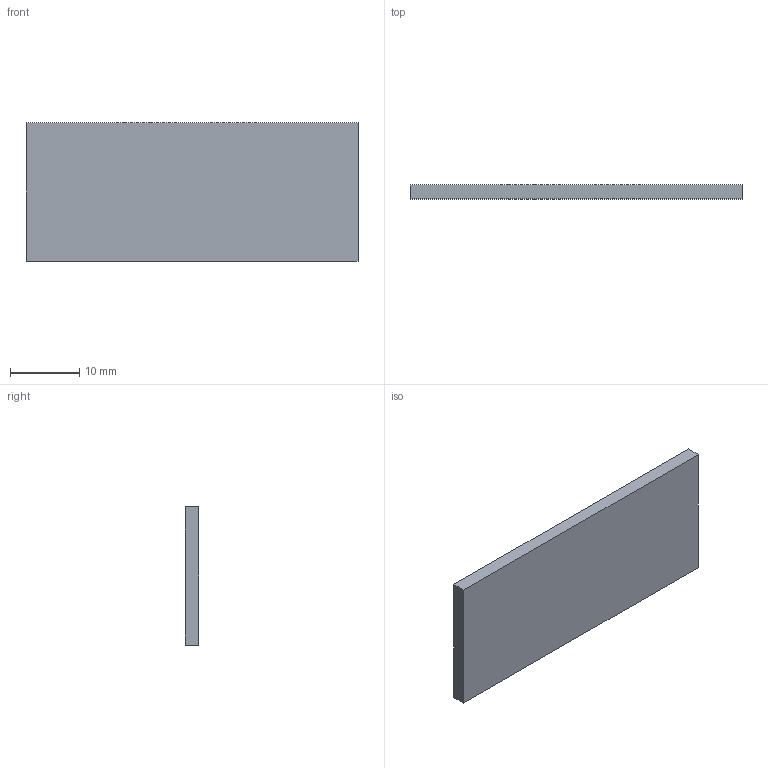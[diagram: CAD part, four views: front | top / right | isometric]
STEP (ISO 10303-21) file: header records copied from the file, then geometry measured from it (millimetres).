
FILE_DESCRIPTION(('STEP AP203'), '1');
FILE_NAME('R1-35-5-1', '', ('UNSPECIFIED'), ('UNSPECIFIED'), 'ASCON STEP Converter 1.6', 'ASCON Math Kernel', '');
FILE_SCHEMA(('CONFIG_CONTROL_DESIGN'));
Length unit declared in the file: millimetre
Bounding box: 48 x 2.01 x 20 mm (x, y, z)
Volume: 1920.5 mm3; surface area: 2192.4 mm2
Topology: 1 solids, 1 shells, 12 faces, 30 edges, 20 vertices
Faces by surface type: plane 12
Entity records: 494 total; most frequent: CARTESIAN_POINT 63, ORIENTED_EDGE 60, DIRECTION 56, EDGE_CURVE 30, LINE 30, VECTOR 30, VERTEX_POINT 20, AXIS2_PLACEMENT_3D 13
